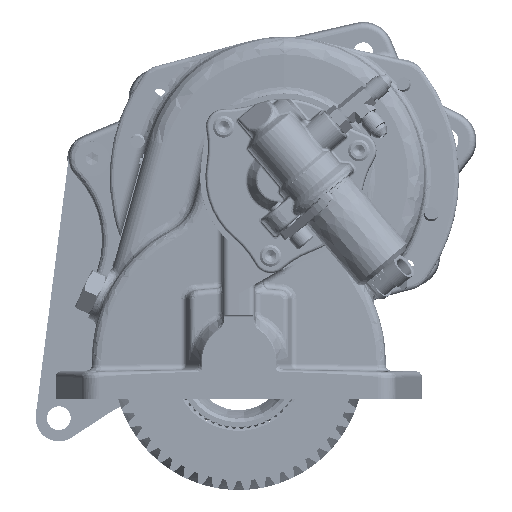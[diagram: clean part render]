
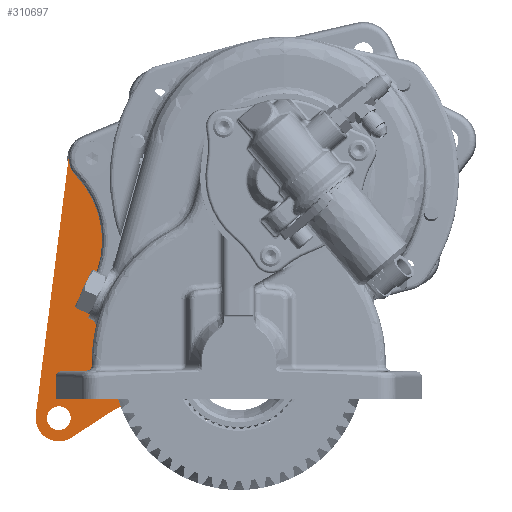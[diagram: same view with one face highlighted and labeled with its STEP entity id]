
A CAD part, left-side view. The second image highlights one B-rep face of the part: STEP entity #310697.
In plain terms, the highlighted planar face has unit normal (-1, 0, 0) as drawn and (0, 0, -1) by its records, which use the part's own axes.
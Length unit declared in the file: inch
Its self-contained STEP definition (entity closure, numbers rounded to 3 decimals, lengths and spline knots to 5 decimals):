
#310363=CARTESIAN_POINT('',(-5.49185,2.80352,0.0));
#310364=VERTEX_POINT('',#310363);
#310365=CARTESIAN_POINT('',(-5.74775,2.80352,0.0));
#310366=DIRECTION('',(0.0,0.0,1.0));
#310367=DIRECTION('',(-1.0,0.0,0.0));
#310368=AXIS2_PLACEMENT_3D('',#310365,#310366,#310367);
#310369=CIRCLE('',#310368,0.25591);
#310370=EDGE_CURVE('',#310364,#310364,#310369,.T.);
#310383=CARTESIAN_POINT('',(-6.10387,0.66862,0.0));
#310384=VERTEX_POINT('',#310383);
#310385=CARTESIAN_POINT('',(-6.35977,0.66862,0.0));
#310386=DIRECTION('',(0.0,0.0,1.0));
#310387=DIRECTION('',(-1.0,0.0,0.0));
#310388=AXIS2_PLACEMENT_3D('',#310385,#310386,#310387);
#310389=CIRCLE('',#310388,0.25591);
#310390=EDGE_CURVE('',#310384,#310384,#310389,.T.);
#310403=CARTESIAN_POINT('',(-6.0581,-1.55486,0.0));
#310404=VERTEX_POINT('',#310403);
#310405=CARTESIAN_POINT('',(-6.31401,-1.55486,0.0));
#310406=DIRECTION('',(0.0,0.0,1.0));
#310407=DIRECTION('',(-1.0,0.0,0.0));
#310408=AXIS2_PLACEMENT_3D('',#310405,#310406,#310407);
#310409=CIRCLE('',#310408,0.25591);
#310410=EDGE_CURVE('',#310404,#310404,#310409,.T.);
#310423=CARTESIAN_POINT('',(-10.76947,0.87146,0.0));
#310424=VERTEX_POINT('',#310423);
#310425=CARTESIAN_POINT('',(-11.01947,0.87146,0.0));
#310426=DIRECTION('',(0.0,0.0,1.0));
#310427=DIRECTION('',(-1.0,0.0,0.0));
#310428=AXIS2_PLACEMENT_3D('',#310425,#310426,#310427);
#310429=CIRCLE('',#310428,0.25);
#310430=EDGE_CURVE('',#310424,#310424,#310429,.T.);
#310443=CARTESIAN_POINT('',(-8.14447,0.87146,0.0));
#310444=VERTEX_POINT('',#310443);
#310445=CARTESIAN_POINT('',(-8.39447,0.87146,0.0));
#310446=DIRECTION('',(0.0,0.0,1.0));
#310447=DIRECTION('',(-1.0,0.0,0.0));
#310448=AXIS2_PLACEMENT_3D('',#310445,#310446,#310447);
#310449=CIRCLE('',#310448,0.25);
#310450=EDGE_CURVE('',#310444,#310444,#310449,.T.);
#310461=CARTESIAN_POINT('',(-6.78347,-1.72692,0.0));
#310462=VERTEX_POINT('',#310461);
#310469=CARTESIAN_POINT('',(-5.82126,-1.46999,0.0));
#310470=VERTEX_POINT('',#310469);
#310471=CARTESIAN_POINT('',(-6.31401,-1.55486,0.0));
#310472=DIRECTION('',(0.0,0.0,-1.));
#310473=DIRECTION('',(0.939,0.344,0.0));
#310474=AXIS2_PLACEMENT_3D('',#310471,#310472,#310473);
#310475=CIRCLE('',#310474,0.5);
#310476=EDGE_CURVE('',#310470,#310462,#310475,.T.);
#310493=CARTESIAN_POINT('',(-7.43233,0.04352,0.0));
#310494=VERTEX_POINT('',#310493);
#310501=CARTESIAN_POINT('',(-6.78347,-1.72692,0.0));
#310502=DIRECTION('',(-0.344,0.939,0.0));
#310503=VECTOR('',#310502,1.88559);
#310504=LINE('',#310501,#310503);
#310505=EDGE_CURVE('',#310462,#310494,#310504,.T.);
#310517=CARTESIAN_POINT('',(-7.90179,0.37146,0.0));
#310518=VERTEX_POINT('',#310517);
#310525=CARTESIAN_POINT('',(-7.90179,-0.12854,0.0));
#310526=DIRECTION('',(0.0,0.0,1.0));
#310527=DIRECTION('',(0.939,0.344,0.0));
#310528=AXIS2_PLACEMENT_3D('',#310525,#310526,#310527);
#310529=CIRCLE('',#310528,0.5);
#310530=EDGE_CURVE('',#310494,#310518,#310529,.T.);
#310542=CARTESIAN_POINT('',(-11.01947,0.37146,0.0));
#310543=VERTEX_POINT('',#310542);
#310550=CARTESIAN_POINT('',(-7.90179,0.37146,0.0));
#310551=DIRECTION('',(-1.0,0.0,0.0));
#310552=VECTOR('',#310551,3.11768);
#310553=LINE('',#310550,#310552);
#310554=EDGE_CURVE('',#310518,#310543,#310553,.T.);
#310566=CARTESIAN_POINT('',(-11.19152,1.34093,0.0));
#310567=VERTEX_POINT('',#310566);
#310574=CARTESIAN_POINT('',(-11.01947,0.87146,0.0));
#310575=DIRECTION('',(0.0,0.0,-1.));
#310576=DIRECTION('',(0.344,-0.939,0.0));
#310577=AXIS2_PLACEMENT_3D('',#310574,#310575,#310576);
#310578=CIRCLE('',#310577,0.5);
#310579=EDGE_CURVE('',#310543,#310567,#310578,.T.);
#310591=CARTESIAN_POINT('',(-5.91981,3.27299,0.0));
#310592=VERTEX_POINT('',#310591);
#310599=CARTESIAN_POINT('',(-11.19152,1.34093,0.0));
#310600=DIRECTION('',(0.939,0.344,0.0));
#310601=VECTOR('',#310600,5.61461);
#310602=LINE('',#310599,#310601);
#310603=EDGE_CURVE('',#310567,#310592,#310602,.T.);
#310615=CARTESIAN_POINT('',(-5.29306,2.59556,0.0));
#310616=VERTEX_POINT('',#310615);
#310623=CARTESIAN_POINT('',(-5.74775,2.80352,0.0));
#310624=DIRECTION('',(0.0,0.0,-1.));
#310625=DIRECTION('',(-0.899,0.438,0.0));
#310626=AXIS2_PLACEMENT_3D('',#310623,#310624,#310625);
#310627=CIRCLE('',#310626,0.5);
#310628=EDGE_CURVE('',#310592,#310616,#310627,.T.);
#310641=CARTESIAN_POINT('',(1.01973,-0.2917,0.0));
#310642=DIRECTION('',(0.0,0.0,1.));
#310643=DIRECTION('',(-0.909,0.416,0.0));
#310644=AXIS2_PLACEMENT_3D('',#310641,#310642,#310643);
#310645=CIRCLE('',#310644,6.94173);
#310646=EDGE_CURVE('',#310616,#310470,#310645,.T.);
#310667=CARTESIAN_POINT('',(-7.76581,0.87992,0.0));
#310668=DIRECTION('',(0.0,0.0,1.0));
#310669=DIRECTION('',(1.0,0.0,0.0));
#310670=AXIS2_PLACEMENT_3D('',#310667,#310668,#310669);
#310671=PLANE('',#310670);
#310672=ORIENTED_EDGE('',*,*,#310646,.T.);
#310673=ORIENTED_EDGE('',*,*,#310476,.T.);
#310674=ORIENTED_EDGE('',*,*,#310505,.T.);
#310675=ORIENTED_EDGE('',*,*,#310530,.T.);
#310676=ORIENTED_EDGE('',*,*,#310554,.T.);
#310677=ORIENTED_EDGE('',*,*,#310579,.T.);
#310678=ORIENTED_EDGE('',*,*,#310603,.T.);
#310679=ORIENTED_EDGE('',*,*,#310628,.T.);
#310680=EDGE_LOOP('',(#310672,#310673,#310674,#310675,#310676,#310677,#310678,#310679));
#310681=FACE_OUTER_BOUND('',#310680,.T.);
#310682=ORIENTED_EDGE('',*,*,#310370,.T.);
#310683=EDGE_LOOP('',(#310682));
#310684=FACE_BOUND('',#310683,.T.);
#310685=ORIENTED_EDGE('',*,*,#310390,.T.);
#310686=EDGE_LOOP('',(#310685));
#310687=FACE_BOUND('',#310686,.T.);
#310688=ORIENTED_EDGE('',*,*,#310410,.T.);
#310689=EDGE_LOOP('',(#310688));
#310690=FACE_BOUND('',#310689,.T.);
#310691=ORIENTED_EDGE('',*,*,#310430,.T.);
#310692=EDGE_LOOP('',(#310691));
#310693=FACE_BOUND('',#310692,.T.);
#310694=ORIENTED_EDGE('',*,*,#310450,.T.);
#310695=EDGE_LOOP('',(#310694));
#310696=FACE_BOUND('',#310695,.T.);
#310697=ADVANCED_FACE('',(#310681,#310684,#310687,#310690,#310693,#310696),#310671,.F.);
